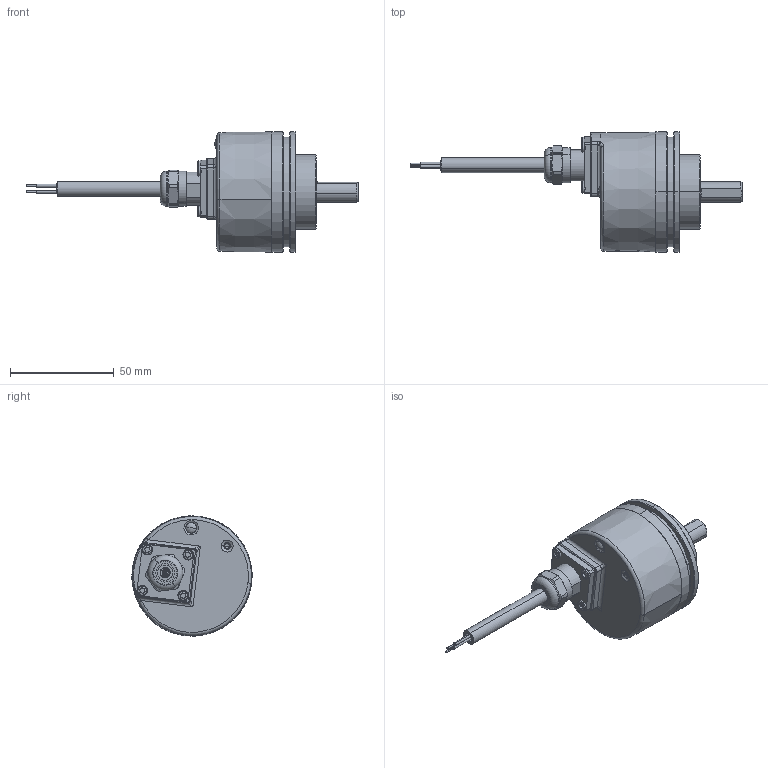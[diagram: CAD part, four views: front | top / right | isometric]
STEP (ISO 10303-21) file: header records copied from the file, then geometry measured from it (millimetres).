
FILE_DESCRIPTION (( 'STEP AP214' ), '1' );
FILE_NAME ('5853SIL.12X1.XXXX.STEP', '2010-07-19T09:33:16', ( 'admin' ), ( 'Fritz Kübler GmbH' ), 'SwSTEP 2.0', 'SolidWorks 2009', '' );
FILE_SCHEMA (( 'AUTOMOTIVE_DESIGN' ));
Length unit declared in the file: millimetre
Products named in the file (1): 5853SIL.12X1.XXXX
Bounding box: 160 x 58 x 58 mm (x, y, z)
Surface area: 22025.7 mm2 (no closed solid volume)
Topology: 0 solids, 14 shells, 270 faces, 678 edges, 429 vertices
Faces by surface type: plane 94, cylinder 80, cone 50, torus 28, sphere 12, bspline 6
Entity records: 12203 total; most frequent: CARTESIAN_POINT 2585, DIRECTION 1532, ORIENTED_EDGE 1250, EDGE_CURVE 676, AXIS2_PLACEMENT_3D 635, VERTEX_POINT 429, CIRCLE 370, EDGE_LOOP 306
